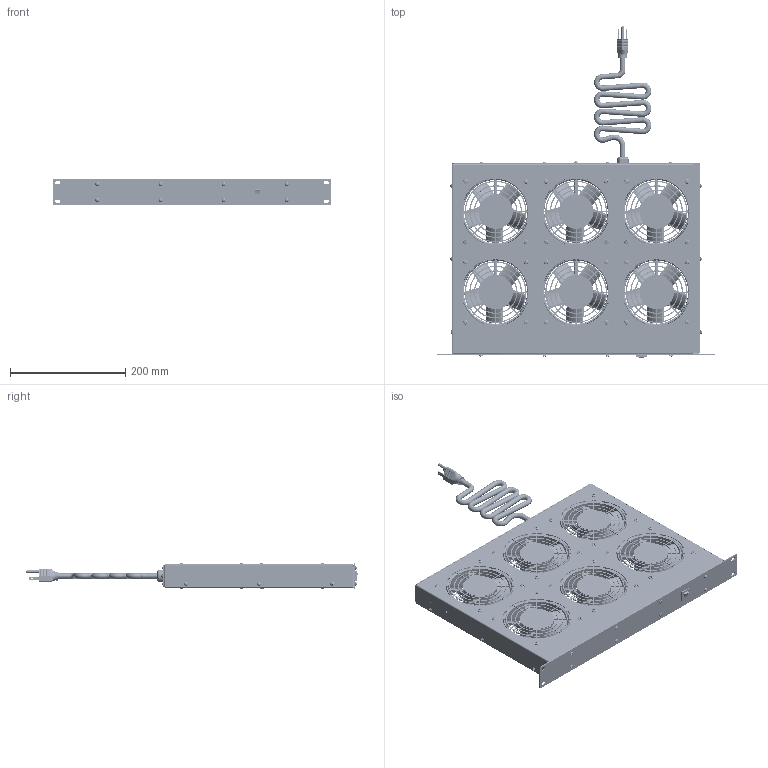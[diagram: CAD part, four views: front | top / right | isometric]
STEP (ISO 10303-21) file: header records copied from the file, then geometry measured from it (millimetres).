
FILE_DESCRIPTION((''),'2;1');
FILE_NAME('E:\Dutton\Manufacturing\drawings\Updated 2009\Fan Trays\STEP''s\FT600TA1BK.stp','2009-10-30T10:32:55',('tfoster'),(''),'Autodesk Inventor 2010','Autodesk Inventor 2010','');
FILE_SCHEMA(('AUTOMOTIVE_DESIGN { 1 0 10303 214 1 1 1 1 }'));
Products named in the file (15): FT600TA1BK; Top,Bottom Panel 2; Fan Assembly; fan; fan insert; Back panel; Reset Switch; Cored; Front Plate 2; round head 1-way 8-32 x 0.5 screw; toothwasher; black 10-32; 10-32 black; 10-32 black 1; tapping screw
Assembly tree (88 placements, depth 3):
  FT600TA1BK
    Top,Bottom Panel 2  x2
    Fan Assembly  x6
      fan
      fan insert
    Back panel
    Reset Switch
    Cored
    Front Plate 2
    round head 1-way 8-32 x 0.5 screw
    toothwasher
    black 10-32  x48
      10-32 black
      10-32 black 1
    tapping screw  x22
Bounding box: 482.6 x 576.18 x 44.45 mm (x, y, z)
Volume: 1432533.3 mm3; surface area: 1167693.1 mm2
Topology: 138 solids, 138 shells, 6055 faces, 25162 edges, 19540 vertices
Faces by surface type: plane 3090, cylinder 1612, bspline 679, cone 513, torus 89, sphere 72
Full cylindrical faces by diameter (mm): 1.5 x12, 1.905 x2, 2.794 x22, 3.048 x4, 3.175 x2, 3.3 x24, 4 x72, 4.2 x48, 4.3 x1, 4.775 x72, 7.29 x4, 7.849 x1, 7.95 x48, 9.5 x10, 11 x1, 15.621 x1, 19 x6, 30 x6, 59 x6, 110 x6
Entity records: 60875 total; most frequent: CARTESIAN_POINT 17086, ORIENTED_EDGE 9166, DIRECTION 8547, EDGE_CURVE 4583, VERTEX_POINT 3218, AXIS2_PLACEMENT_3D 2963, VECTOR 2621, LINE 2621
